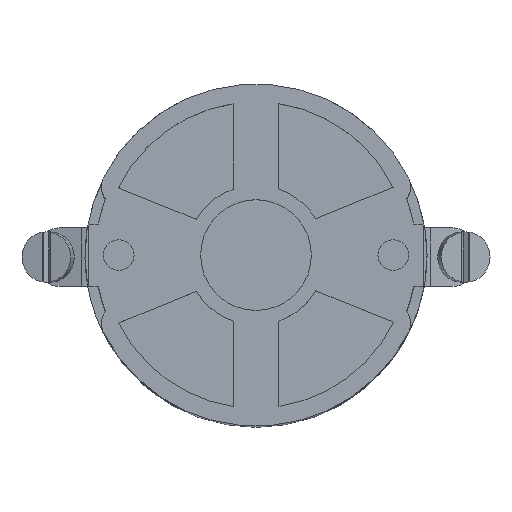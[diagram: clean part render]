
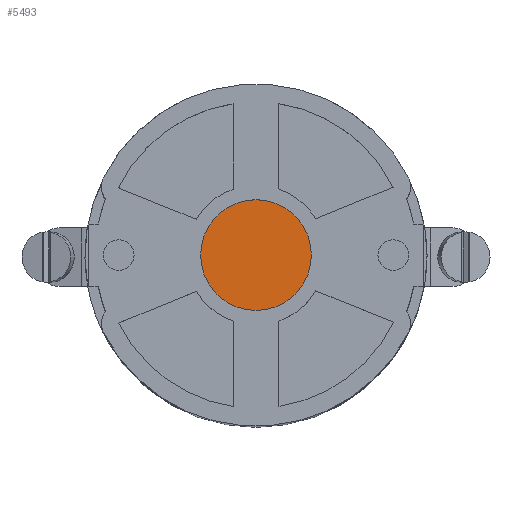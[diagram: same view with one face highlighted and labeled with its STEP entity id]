
A CAD part, top view. The second image highlights one B-rep face of the part: STEP entity #5493.
In plain terms, the highlighted planar face has unit normal (0, 0, 1).
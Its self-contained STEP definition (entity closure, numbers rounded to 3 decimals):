
#744=FACE_OUTER_BOUND('',#7628,.T.);
#5493=ADVANCED_FACE('',(#744),#6492,.T.);
#6492=PLANE('',#19913);
#7628=EDGE_LOOP('',(#9434));
#9434=ORIENTED_EDGE('',*,*,#16694,.F.);
#14663=VERTEX_POINT('',#27499);
#16694=EDGE_CURVE('',#14663,#14663,#19179,.T.);
#19179=CIRCLE('',#19912,6.15);
#19912=AXIS2_PLACEMENT_3D('',#27498,#22204,#22205);
#19913=AXIS2_PLACEMENT_3D('',#27500,#22206,#22207);
#22204=DIRECTION('',(0.,0.,-1.));
#22205=DIRECTION('',(1.,0.,0.));
#22206=DIRECTION('',(0.,0.,1.));
#22207=DIRECTION('',(1.,0.,0.));
#27498=CARTESIAN_POINT('',(0.,0.,70.1));
#27499=CARTESIAN_POINT('',(6.15,0.,70.1));
#27500=CARTESIAN_POINT('',(0.,0.,70.1));
